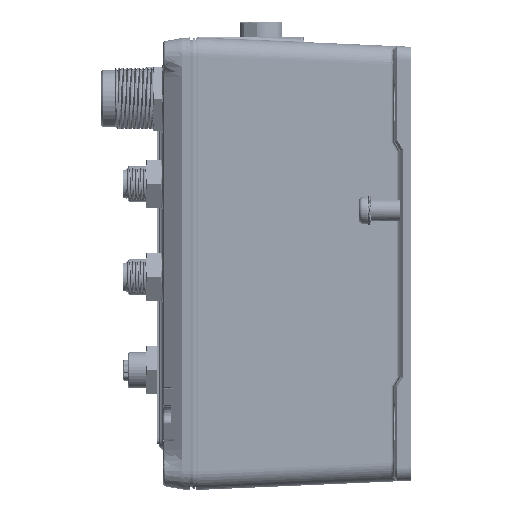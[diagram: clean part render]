
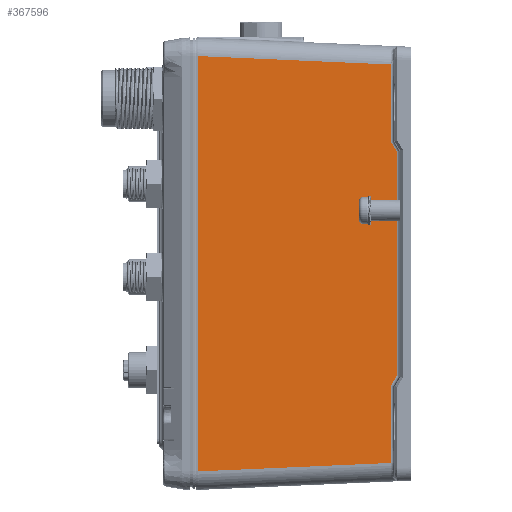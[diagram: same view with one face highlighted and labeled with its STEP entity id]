
A CAD part, left-side view. The second image highlights one B-rep face of the part: STEP entity #367596.
In plain terms, the highlighted planar face has unit normal (-0.999, -0.035, 0).
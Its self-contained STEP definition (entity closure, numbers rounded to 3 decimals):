
#310436=DIRECTION('',(0.,0.,1.));
#310437=VECTOR('',#310436,156.008);
#310438=CARTESIAN_POINT('',(-131.5,-3.4,
-80.004));
#310439=LINE('',#310438,#310437);
#310602=DIRECTION('',(0.035,-0.998,0.044));
#310603=VECTOR('',#310602,72.79);
#310604=CARTESIAN_POINT('',(-131.5,-3.4,
-80.004));
#310605=LINE('',#310604,#310603);
#310606=DIRECTION('',(-0.035,0.998,0.044));
#310607=VECTOR('',#310606,72.79);
#310608=CARTESIAN_POINT('',(-128.962,-76.076,
72.831));
#310609=LINE('',#310608,#310607);
#310610=DIRECTION('',(-0.017,0.5,0.866));
#310611=VECTOR('',#310610,4.);
#310612=CARTESIAN_POINT('',(-128.892,-78.075,
40.19));
#310613=LINE('',#310612,#310611);
#310614=DIRECTION('',(0.017,-0.5,0.866));
#310615=VECTOR('',#310614,4.);
#310616=CARTESIAN_POINT('',(-128.962,-76.076,
-47.655));
#310617=LINE('',#310616,#310615);
#311548=DIRECTION('',(0.,0.,-1.));
#311549=VECTOR('',#311548,29.176);
#311550=CARTESIAN_POINT('',(-128.962,-76.076,
-47.655));
#311551=LINE('',#311550,#311549);
#311616=DIRECTION('',(0.,0.,-1.));
#311617=VECTOR('',#311616,84.38);
#311618=CARTESIAN_POINT('',(-128.892,-78.075,
40.19));
#311619=LINE('',#311618,#311617);
#311703=DIRECTION('',(0.,0.,
-1.));
#311704=VECTOR('',#311703,29.176);
#311705=CARTESIAN_POINT('',(-128.962,-76.076,
72.831));
#311706=LINE('',#311705,#311704);
#348309=CARTESIAN_POINT('',(-131.5,-3.4,
76.004));
#348310=VERTEX_POINT('',#348309);
#348342=CARTESIAN_POINT('',(-131.5,-3.4,
-80.004));
#348343=CARTESIAN_POINT('',(-128.962,-76.076,
-76.831));
#348344=VERTEX_POINT('',#348342);
#348345=VERTEX_POINT('',#348343);
#348377=CARTESIAN_POINT('',(-128.962,-76.076,
-47.655));
#348378=VERTEX_POINT('',#348377);
#348412=CARTESIAN_POINT('',(-128.892,-78.075,
-44.19));
#348413=VERTEX_POINT('',#348412);
#348414=CARTESIAN_POINT('',(-128.962,-76.076,
72.831));
#348415=VERTEX_POINT('',#348414);
#348469=CARTESIAN_POINT('',(-128.892,-78.075,
40.19));
#348470=VERTEX_POINT('',#348469);
#348471=CARTESIAN_POINT('',(-128.962,-76.076,
43.655));
#348472=VERTEX_POINT('',#348471);
#367575=CARTESIAN_POINT('',(-131.5,-3.4,-91.67));
#367576=DIRECTION('',(-0.999,-0.035,0.));
#367577=DIRECTION('',(0.,0.,1.));
#367578=AXIS2_PLACEMENT_3D('',#367575,#367576,#367577);
#367579=PLANE('',#367578);
#367581=ORIENTED_EDGE('',*,*,#367580,.F.);
#367582=ORIENTED_EDGE('',*,*,#367352,.T.);
#367583=ORIENTED_EDGE('',*,*,#367564,.F.);
#367585=ORIENTED_EDGE('',*,*,#367584,.T.);
#367587=ORIENTED_EDGE('',*,*,#367586,.F.);
#367589=ORIENTED_EDGE('',*,*,#367588,.T.);
#367591=ORIENTED_EDGE('',*,*,#367590,.F.);
#367593=ORIENTED_EDGE('',*,*,#367592,.T.);
#367594=EDGE_LOOP('',(#367581,#367582,#367583,#367585,#367587,#367589,#367591,
#367593));
#367595=FACE_OUTER_BOUND('',#367594,.F.);
#367352=EDGE_CURVE('',#348344,#348310,#310439,.T.);
#367564=EDGE_CURVE('',#348415,#348310,#310609,.T.);
#367580=EDGE_CURVE('',#348344,#348345,#310605,.T.);
#367584=EDGE_CURVE('',#348415,#348472,#311706,.T.);
#367586=EDGE_CURVE('',#348470,#348472,#310613,.T.);
#367588=EDGE_CURVE('',#348470,#348413,#311619,.T.);
#367590=EDGE_CURVE('',#348378,#348413,#310617,.T.);
#367592=EDGE_CURVE('',#348378,#348345,#311551,.T.);
#367596=ADVANCED_FACE('',(#367595),#367579,.T.);
